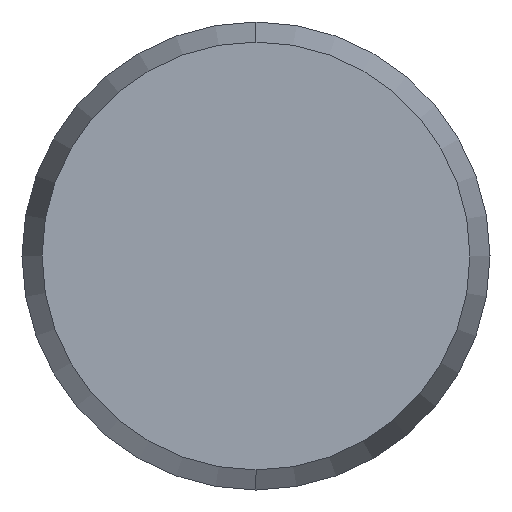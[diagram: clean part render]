
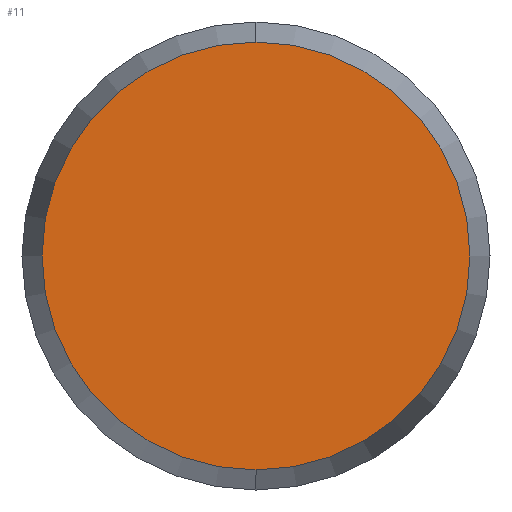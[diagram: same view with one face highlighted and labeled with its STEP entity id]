
A CAD part, left-side view. The second image highlights one B-rep face of the part: STEP entity #11.
In plain terms, the highlighted planar face has unit normal (-1, 0, 0).
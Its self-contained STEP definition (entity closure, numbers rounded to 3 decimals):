
#3 = EDGE_CURVE ( 'NONE', #44, #43, #79, .T. ) ;
#8 = EDGE_CURVE ( 'NONE', #43, #44, #74, .T. ) ;
#11 = ADVANCED_FACE ( 'NONE', ( #70 ), #69, .F. ) ;
#12 = EDGE_LOOP ( 'NONE', ( #13, #14 ) ) ;
#13 = ORIENTED_EDGE ( 'NONE', *, *, #3, .F. ) ;
#14 = ORIENTED_EDGE ( 'NONE', *, *, #8, .F. ) ;
#43 = VERTEX_POINT ( 'NONE', #275 ) ;
#44 = VERTEX_POINT ( 'NONE', #271 ) ;
#64 = DIRECTION ( 'NONE',  ( 0., 0., -1. ) ) ;
#65 = DIRECTION ( 'NONE',  ( 1., 0., 0. ) ) ;
#66 = CARTESIAN_POINT ( 'NONE',  ( -7., 0., 0. ) ) ;
#68 = AXIS2_PLACEMENT_3D ( 'NONE', #66, #65, #64 ) ;
#69 = PLANE ( 'NONE',  #68 ) ;
#70 = FACE_OUTER_BOUND ( 'NONE', #12, .T. ) ;
#71 = DIRECTION ( 'NONE',  ( 0., 0., -1. ) ) ;
#72 = DIRECTION ( 'NONE',  ( 1., 0., 0. ) ) ;
#73 = AXIS2_PLACEMENT_3D ( 'NONE', #80, #72, #71 ) ;
#74 = CIRCLE ( 'NONE', #73, 2.286 ) ;
#75 = DIRECTION ( 'NONE',  ( 0., 0., -1. ) ) ;
#76 = DIRECTION ( 'NONE',  ( 1., 0., 0. ) ) ;
#77 = CARTESIAN_POINT ( 'NONE',  ( -7., 0., 0. ) ) ;
#78 = AXIS2_PLACEMENT_3D ( 'NONE', #77, #76, #75 ) ;
#79 = CIRCLE ( 'NONE', #78, 2.286 ) ;
#80 = CARTESIAN_POINT ( 'NONE',  ( -7., 0., 0. ) ) ;
#271 = CARTESIAN_POINT ( 'NONE',  ( -7., 0., 2.286 ) ) ;
#275 = CARTESIAN_POINT ( 'NONE',  ( -7., 0., -2.286 ) ) ;
